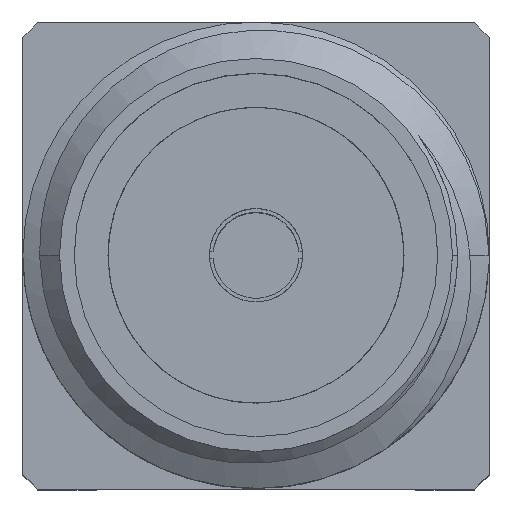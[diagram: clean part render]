
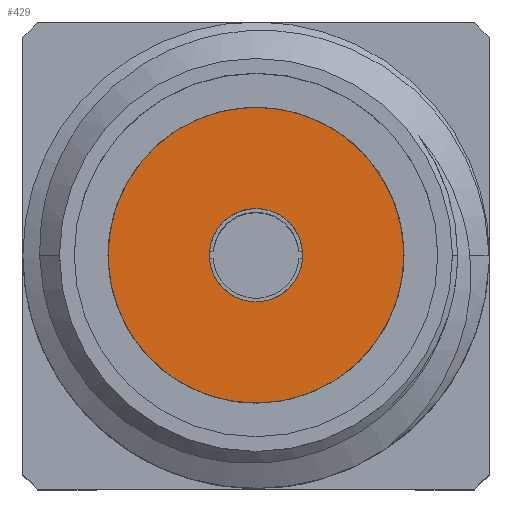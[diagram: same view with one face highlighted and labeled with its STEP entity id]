
A CAD part, top view. The second image highlights one B-rep face of the part: STEP entity #429.
In plain terms, the highlighted planar face has unit normal (0, 0, 1).
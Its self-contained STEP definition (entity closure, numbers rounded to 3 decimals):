
#18 = ORIENTED_EDGE ( 'NONE', *, *, #2949, .T. ) ;
#75 = EDGE_CURVE ( 'NONE', #1690, #2067, #3944, .T. ) ;
#96 = CARTESIAN_POINT ( 'NONE',  ( 0., 0.145, 7.5 ) ) ;
#104 = AXIS2_PLACEMENT_3D ( 'NONE', #1790, #1070, #1434 ) ;
#110 = VERTEX_POINT ( 'NONE', #2751 ) ;
#145 = CARTESIAN_POINT ( 'NONE',  ( 1.394, -1.31, 7.5 ) ) ;
#376 = DIRECTION ( 'NONE',  ( 0., 0., -1. ) ) ;
#429 = ADVANCED_FACE ( 'NONE', ( #704, #3378 ), #1320, .F. ) ;
#505 = AXIS2_PLACEMENT_3D ( 'NONE', #3095, #376, #1364 ) ;
#515 = DIRECTION ( 'NONE',  ( 0., 0., -1. ) ) ;
#666 = CARTESIAN_POINT ( 'NONE',  ( 0., 0.145, 7.5 ) ) ;
#704 = FACE_BOUND ( 'NONE', #870, .T. ) ;
#787 = ORIENTED_EDGE ( 'NONE', *, *, #1957, .F. ) ;
#870 = EDGE_LOOP ( 'NONE', ( #4067, #18 ) ) ;
#1070 = DIRECTION ( 'NONE',  ( 0., 0., -1. ) ) ;
#1286 = ORIENTED_EDGE ( 'NONE', *, *, #75, .F. ) ;
#1320 = PLANE ( 'NONE',  #3455 ) ;
#1364 = DIRECTION ( 'NONE',  ( 0.722, 0.692, 0. ) ) ;
#1434 = DIRECTION ( 'NONE',  ( 0.722, 0.692, 0. ) ) ;
#1657 = CIRCLE ( 'NONE', #4100, 0.635 ) ;
#1690 = VERTEX_POINT ( 'NONE', #2504 ) ;
#1750 = EDGE_LOOP ( 'NONE', ( #787, #1286 ) ) ;
#1789 = CIRCLE ( 'NONE', #104, 0.635 ) ;
#1790 = CARTESIAN_POINT ( 'NONE',  ( 0., 0.145, 7.5 ) ) ;
#1917 = CARTESIAN_POINT ( 'NONE',  ( 0., 0.145, 7.5 ) ) ;
#1957 = EDGE_CURVE ( 'NONE', #2067, #1690, #2396, .T. ) ;
#2067 = VERTEX_POINT ( 'NONE', #145 ) ;
#2396 = CIRCLE ( 'NONE', #505, 2.015 ) ;
#2504 = CARTESIAN_POINT ( 'NONE',  ( -1.394, 1.6, 7.5 ) ) ;
#2751 = CARTESIAN_POINT ( 'NONE',  ( 0.439, -0.314, 7.5 ) ) ;
#2851 = EDGE_CURVE ( 'NONE', #110, #3287, #1789, .T. ) ;
#2856 = DIRECTION ( 'NONE',  ( 0.722, 0.692, 0. ) ) ;
#2949 = EDGE_CURVE ( 'NONE', #3287, #110, #1657, .T. ) ;
#3013 = DIRECTION ( 'NONE',  ( 0., 0., -1. ) ) ;
#3095 = CARTESIAN_POINT ( 'NONE',  ( 0., 0.145, 7.5 ) ) ;
#3103 = DIRECTION ( 'NONE',  ( 0., 0., -1. ) ) ;
#3287 = VERTEX_POINT ( 'NONE', #3422 ) ;
#3378 = FACE_OUTER_BOUND ( 'NONE', #1750, .T. ) ;
#3422 = CARTESIAN_POINT ( 'NONE',  ( -0.439, 0.604, 7.5 ) ) ;
#3455 = AXIS2_PLACEMENT_3D ( 'NONE', #666, #3013, #4323 ) ;
#3662 = AXIS2_PLACEMENT_3D ( 'NONE', #96, #3103, #3717 ) ;
#3717 = DIRECTION ( 'NONE',  ( 0.722, 0.692, 0. ) ) ;
#3944 = CIRCLE ( 'NONE', #3662, 2.015 ) ;
#4067 = ORIENTED_EDGE ( 'NONE', *, *, #2851, .T. ) ;
#4100 = AXIS2_PLACEMENT_3D ( 'NONE', #1917, #515, #2856 ) ;
#4323 = DIRECTION ( 'NONE',  ( 0.722, 0.692, 0. ) ) ;
